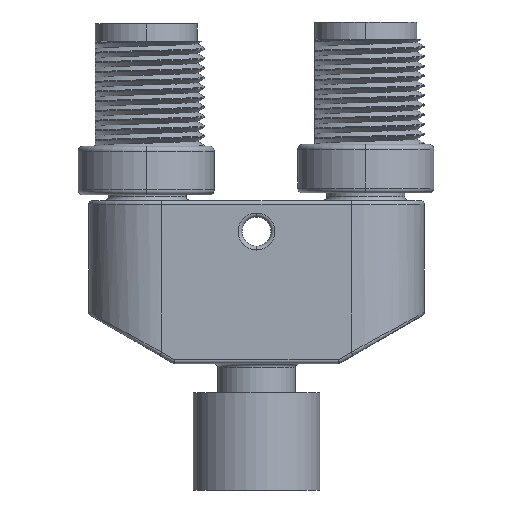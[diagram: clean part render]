
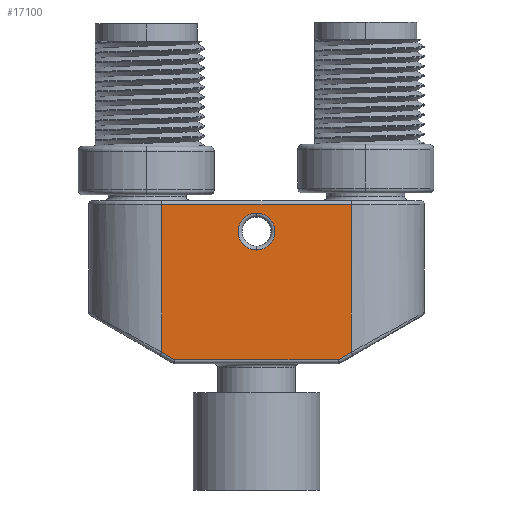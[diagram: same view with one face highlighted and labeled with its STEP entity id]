
A CAD part, front view. The second image highlights one B-rep face of the part: STEP entity #17100.
In plain terms, the highlighted planar face has unit normal (0, -1, 0).
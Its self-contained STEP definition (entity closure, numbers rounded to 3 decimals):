
#142 = CARTESIAN_POINT ( 'NONE',  ( -120.559, 11.079, 6.9 ) ) ;
#972 = VECTOR ( 'NONE', #35020, 1000. ) ;
#1344 = CIRCLE ( 'NONE', #16044, 1.9 ) ;
#2209 = ORIENTED_EDGE ( 'NONE', *, *, #4246, .T. ) ;
#2285 = CARTESIAN_POINT ( 'NONE',  ( -101.059, 11.079, 6.9 ) ) ;
#2714 = VECTOR ( 'NONE', #32726, 1000. ) ;
#2721 = ORIENTED_EDGE ( 'NONE', *, *, #25295, .T. ) ;
#3905 = VECTOR ( 'NONE', #32720, 1000. ) ;
#4246 = EDGE_CURVE ( 'NONE', #5774, #20675, #14127, .T. ) ;
#4469 = VERTEX_POINT ( 'NONE', #13869 ) ;
#4823 = FACE_OUTER_BOUND ( 'NONE', #14410, .T. ) ;
#4931 = VERTEX_POINT ( 'NONE', #18548 ) ;
#5489 = PLANE ( 'NONE',  #16885 ) ;
#5774 = VERTEX_POINT ( 'NONE', #34486 ) ;
#6112 = VECTOR ( 'NONE', #21311, 1000. ) ;
#7936 = CARTESIAN_POINT ( 'NONE',  ( -101.259, 11.079, -8.832 ) ) ;
#8959 = CARTESIAN_POINT ( 'NONE',  ( -128.059, 11.079, -9.5 ) ) ;
#9298 = ORIENTED_EDGE ( 'NONE', *, *, #27327, .T. ) ;
#10453 = DIRECTION ( 'NONE',  ( 0., 0., 1. ) ) ;
#10553 = EDGE_CURVE ( 'NONE', #12377, #29309, #12907, .T. ) ;
#10683 = DIRECTION ( 'NONE',  ( 0., -1., 0. ) ) ;
#11063 = CARTESIAN_POINT ( 'NONE',  ( -128.059, 11.079, 6.5 ) ) ;
#11094 = LINE ( 'NONE', #19067, #3905 ) ;
#11210 = VECTOR ( 'NONE', #10453, 1000. ) ;
#12377 = VERTEX_POINT ( 'NONE', #32705 ) ;
#12747 = EDGE_CURVE ( 'NONE', #20675, #5774, #1344, .T. ) ;
#12819 = CARTESIAN_POINT ( 'NONE',  ( -120.559, 11.079, -8.716 ) ) ;
#12907 = LINE ( 'NONE', #2285, #11210 ) ;
#12933 = CARTESIAN_POINT ( 'NONE',  ( -110.809, 11.079, 1.8 ) ) ;
#13509 = CARTESIAN_POINT ( 'NONE',  ( -128.059, 11.079, 6.9 ) ) ;
#13869 = CARTESIAN_POINT ( 'NONE',  ( -120.559, 11.079, 6.5 ) ) ;
#14034 = DIRECTION ( 'NONE',  ( 1., 0., 0. ) ) ;
#14127 = CIRCLE ( 'NONE', #29346, 1.9 ) ;
#14410 = EDGE_LOOP ( 'NONE', ( #34788, #23750, #24741, #9298, #35081, #2721 ) ) ;
#14576 = VERTEX_POINT ( 'NONE', #28402 ) ;
#14802 = EDGE_CURVE ( 'NONE', #4931, #14576, #28382, .T. ) ;
#15792 = LINE ( 'NONE', #142, #6112 ) ;
#16044 = AXIS2_PLACEMENT_3D ( 'NONE', #19300, #22149, #33056 ) ;
#16885 = AXIS2_PLACEMENT_3D ( 'NONE', #13509, #10683, #35050 ) ;
#16982 = EDGE_CURVE ( 'NONE', #4469, #23939, #15792, .T. ) ;
#17100 = ADVANCED_FACE ( 'NONE', ( #30257, #4823 ), #5489, .T. ) ;
#18548 = CARTESIAN_POINT ( 'NONE',  ( -119.202, 11.079, -9.5 ) ) ;
#19067 = CARTESIAN_POINT ( 'NONE',  ( -119.109, 11.079, -9.554 ) ) ;
#19300 = CARTESIAN_POINT ( 'NONE',  ( -110.809, 11.079, 3.7 ) ) ;
#19422 = VECTOR ( 'NONE', #14034, 1000. ) ;
#20675 = VERTEX_POINT ( 'NONE', #12933 ) ;
#21311 = DIRECTION ( 'NONE',  ( 0., 0., -1. ) ) ;
#21665 = DIRECTION ( 'NONE',  ( 0., 0., -1. ) ) ;
#22149 = DIRECTION ( 'NONE',  ( 0., 1., 0. ) ) ;
#22697 = EDGE_LOOP ( 'NONE', ( #24675, #2209 ) ) ;
#23750 = ORIENTED_EDGE ( 'NONE', *, *, #29598, .T. ) ;
#23939 = VERTEX_POINT ( 'NONE', #12819 ) ;
#24675 = ORIENTED_EDGE ( 'NONE', *, *, #12747, .T. ) ;
#24741 = ORIENTED_EDGE ( 'NONE', *, *, #14802, .T. ) ;
#25295 = EDGE_CURVE ( 'NONE', #29309, #4469, #26032, .T. ) ;
#26032 = LINE ( 'NONE', #11063, #2714 ) ;
#27327 = EDGE_CURVE ( 'NONE', #14576, #12377, #27704, .T. ) ;
#27704 = LINE ( 'NONE', #7936, #972 ) ;
#28382 = LINE ( 'NONE', #8959, #19422 ) ;
#28402 = CARTESIAN_POINT ( 'NONE',  ( -102.416, 11.079, -9.5 ) ) ;
#29309 = VERTEX_POINT ( 'NONE', #31897 ) ;
#29346 = AXIS2_PLACEMENT_3D ( 'NONE', #31886, #32708, #21665 ) ;
#29598 = EDGE_CURVE ( 'NONE', #23939, #4931, #11094, .T. ) ;
#30257 = FACE_BOUND ( 'NONE', #22697, .T. ) ;
#31886 = CARTESIAN_POINT ( 'NONE',  ( -110.809, 11.079, 3.7 ) ) ;
#31897 = CARTESIAN_POINT ( 'NONE',  ( -101.059, 11.079, 6.5 ) ) ;
#32705 = CARTESIAN_POINT ( 'NONE',  ( -101.059, 11.079, -8.716 ) ) ;
#32708 = DIRECTION ( 'NONE',  ( 0., 1., 0. ) ) ;
#32720 = DIRECTION ( 'NONE',  ( 0.866, 0., -0.5 ) ) ;
#32726 = DIRECTION ( 'NONE',  ( -1., 0., 0. ) ) ;
#33056 = DIRECTION ( 'NONE',  ( 0., 0., -1. ) ) ;
#34486 = CARTESIAN_POINT ( 'NONE',  ( -110.809, 11.079, 5.6 ) ) ;
#34788 = ORIENTED_EDGE ( 'NONE', *, *, #16982, .T. ) ;
#35020 = DIRECTION ( 'NONE',  ( 0.866, 0., 0.5 ) ) ;
#35050 = DIRECTION ( 'NONE',  ( 0., 0., -1. ) ) ;
#35081 = ORIENTED_EDGE ( 'NONE', *, *, #10553, .T. ) ;
